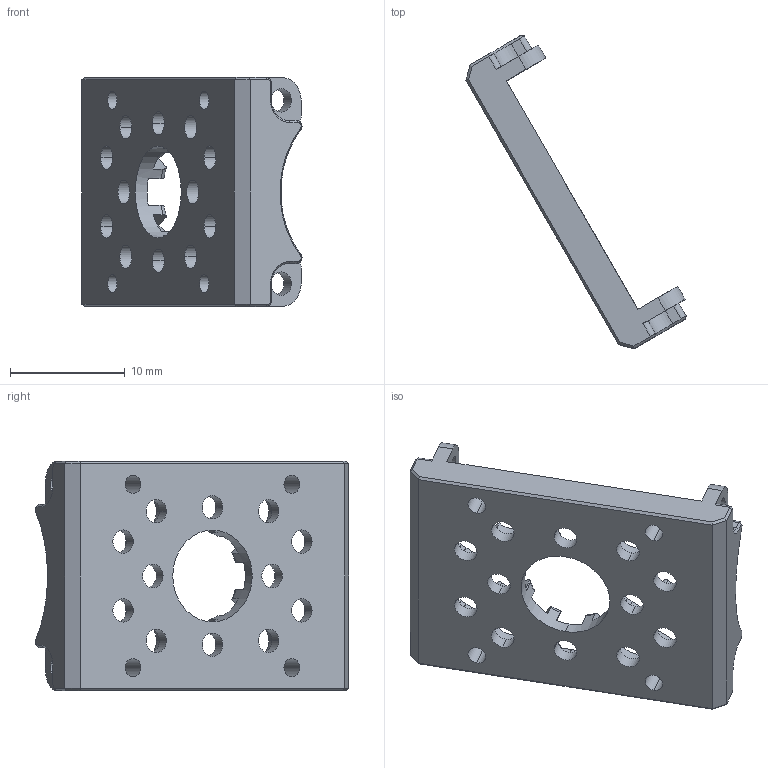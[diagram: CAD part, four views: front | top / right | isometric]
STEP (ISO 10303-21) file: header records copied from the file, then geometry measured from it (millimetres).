
FILE_DESCRIPTION (( 'STEP AP214' ), '1' );
FILE_NAME ('middle_0.STEP', '2026-09-17T13:01:25', ( '' ), ( '' ), 'SwSTEP 2.0', 'SolidWorks 2024', '' );
FILE_SCHEMA (( 'AUTOMOTIVE_DESIGN' ));
Length unit declared in the file: millimetre
Products named in the file (2): middle_0; fpx330-s101_默认
Assembly tree (1 placements, depth 2):
  middle_0
    fpx330-s101_默认
Bounding box: 19.19 x 27.34 x 20 mm (x, y, z)
Volume: 1208.5 mm3; surface area: 2187.5 mm2
Topology: 1 solids, 1 shells, 426 faces, 1180 edges, 760 vertices
Faces by surface type: plane 298, cylinder 102, cone 18, torus 8
Entity records: 13681 total; most frequent: CARTESIAN_POINT 2474, ORIENTED_EDGE 2360, DIRECTION 2290, EDGE_CURVE 1180, VECTOR 898, LINE 898, VERTEX_POINT 760, AXIS2_PLACEMENT_3D 696
